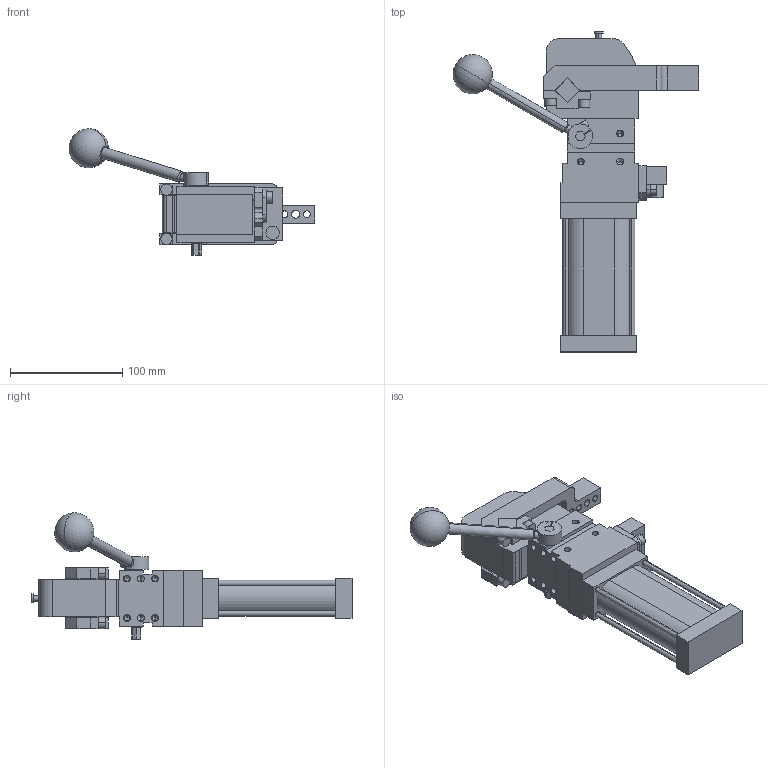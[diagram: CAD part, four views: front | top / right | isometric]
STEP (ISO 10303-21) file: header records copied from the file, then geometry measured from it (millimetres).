
FILE_DESCRIPTION (( 'STEP AP214' ), '1' );
FILE_NAME ('cplm40lav2csi1g_19.STEP', '2021-05-25T12:23:47', ( '' ), ( '' ), 'SwSTEP 2.0', 'SolidWorks 2021', '' );
FILE_SCHEMA (( 'AUTOMOTIVE_DESIGN' ));
Length unit declared in the file: millimetre
Products named in the file (6): comando_manuale_cplm_40; blocchetto_VEP_0_cpl40; leva_v2c_cpl40; piastra_blocchetto_cpl40; cplm40lav2csi1g_19; meccanica_cplm40
Assembly tree (5 placements, depth 2):
  cplm40lav2csi1g_19
    meccanica_cplm40
    blocchetto_VEP_0_cpl40
    piastra_blocchetto_cpl40
    leva_v2c_cpl40
    comando_manuale_cplm_40
Bounding box: 218.62 x 285 x 112.66 mm (x, y, z)
Volume: 798457.2 mm3; surface area: 124552.8 mm2
Topology: 6 solids, 6 shells, 458 faces, 1174 edges, 739 vertices
Faces by surface type: plane 255, cylinder 155, cone 46, sphere 2
Entity records: 15210 total; most frequent: CARTESIAN_POINT 2447, DIRECTION 2421, ORIENTED_EDGE 2254, EDGE_CURVE 1127, AXIS2_PLACEMENT_3D 832, VECTOR 757, LINE 757, VERTEX_POINT 736
